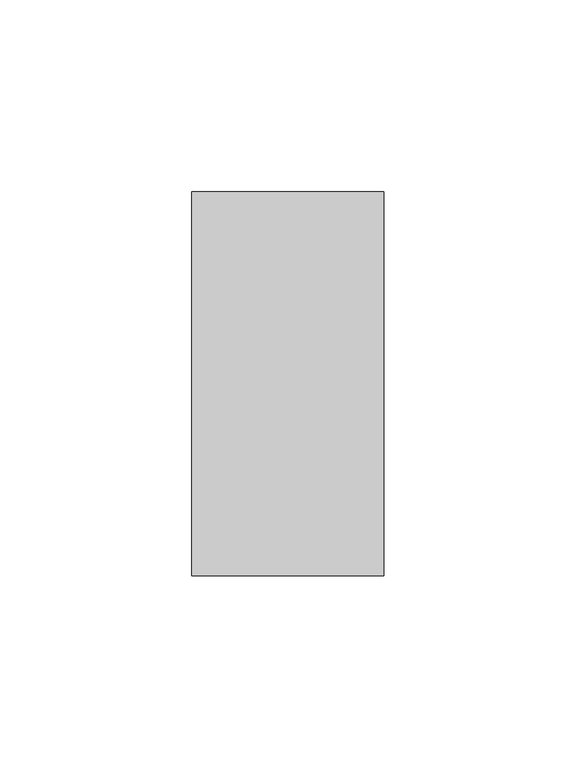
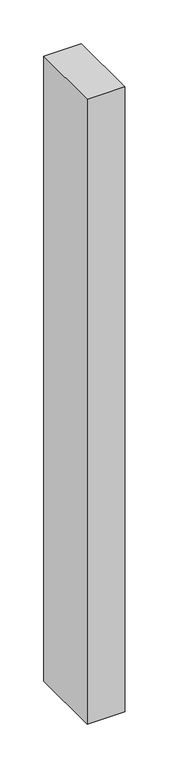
"""IFC4 building model written with IfcOpenShell, lengths in millimetres: member geometry, Прямоугольный импост : 50х100."""

from ifc_helpers import new_model, si_unit, frame, origin, place, context, project, spatial, polyline, outline, extrude, source, transform, mapped, element, save


def member_1ab4e24a(model_context):
    return source(origin(), model_context, "Body", "SweptSolid", [
        extrude(outline(polyline([(0.0, 50.0), (0.0, -50.0), (-50.0, -50.0), (-50.0, 50.0), (0.0, 50.0)])), frame((0.0, 0.0, -875.0), z_axis=(0.0, 0.0, 1.0), x_axis=(1.0, 0.0, 0.0)), (0.0, 0.0, 1.0), 875.0),
    ])


if __name__ == "__main__":
    model = new_model("IFC4")
    model_context = context("Model", 3, world=origin())
    ifc_project = project(units=[si_unit("LENGTHUNIT", "METRE", prefix="MILLI")], contexts=[model_context])
    site = spatial("IfcSite", under=ifc_project)
    building = spatial("IfcBuilding", under=site)
    placement = place(None, origin())
    member_shape = member_1ab4e24a(model_context)
    element("IfcMember", 1, ObjectType="Прямоугольный импост : 50х100", at=placement, inside=building, context=model_context, shape_type="MappedRepresentation", body=[
        mapped(member_shape, transform((0.0, 0.0, 0.0), x_axis=(1.0, 0.0, 0.0), y_axis=(0.0, 1.0, 0.0), z_axis=(0.0, 0.0, 1.0))),
    ])
    save(model, "model.ifc")
